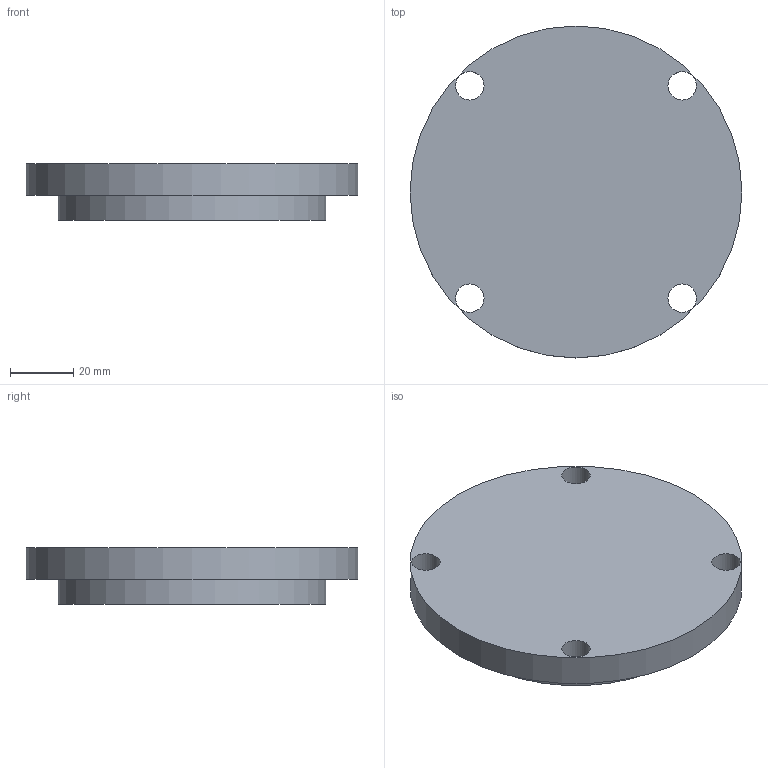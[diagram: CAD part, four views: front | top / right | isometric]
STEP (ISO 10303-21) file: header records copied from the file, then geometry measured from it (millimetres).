
FILE_DESCRIPTION(('Open CASCADE Model'),'2;1');
FILE_NAME('Open CASCADE Shape Model','2026-09-15T22:58:05',('Author'),( 'Open CASCADE'),'Open CASCADE STEP processor 7.9','build123d', 'Unknown');
FILE_SCHEMA(('AUTOMOTIVE_DESIGN { 1 0 10303 214 1 1 1 1 }'));
Length unit declared in the file: millimetre
Products named in the file (1): COMPOUND
Bounding box: 105 x 105 x 18 mm (x, y, z)
Volume: 129015.2 mm3; surface area: 23365 mm2
Topology: 1 solids, 1 shells, 9 faces, 18 edges, 12 vertices
Faces by surface type: cylinder 6, plane 3
Full cylindrical faces by diameter (mm): 9 x4, 84.6 x1, 105 x1
Entity records: 504 total; most frequent: DIRECTION 86, CARTESIAN_POINT 76, ORIENTED_EDGE 36, PCURVE 36, DEFINITIONAL_REPRESENTATION 36, LINE 30, VECTOR 30, CIRCLE 24
